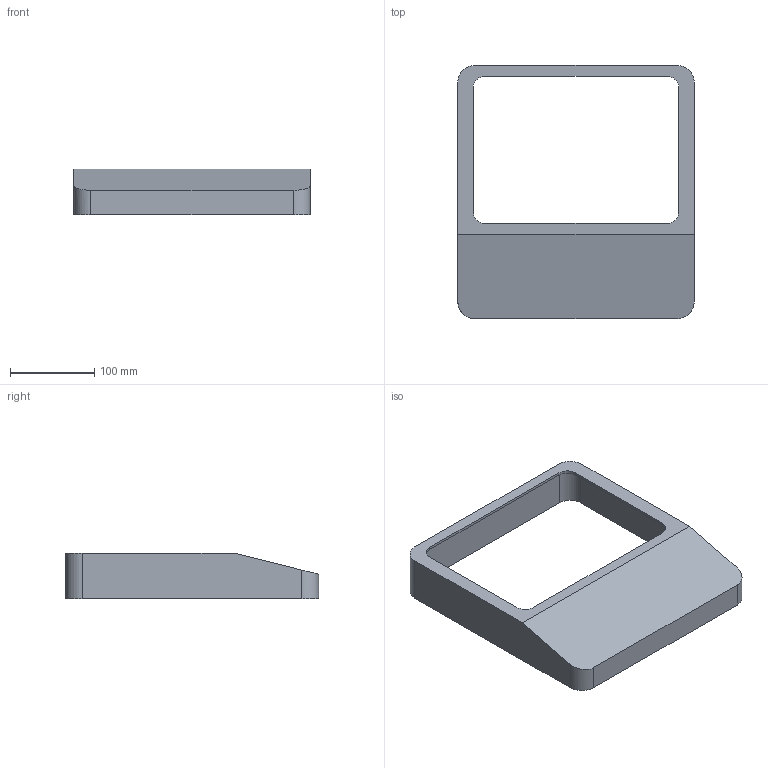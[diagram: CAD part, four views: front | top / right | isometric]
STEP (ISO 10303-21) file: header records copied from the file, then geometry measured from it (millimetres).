
FILE_DESCRIPTION(('Open CASCADE Model'),'2;1');
FILE_NAME('Open CASCADE Shape Model','2026-09-07T11:12:44',('Author'),( 'Open CASCADE'),'Open CASCADE STEP processor 7.9','Open CASCADE 7.9' ,'Unknown');
FILE_SCHEMA(('AUTOMOTIVE_DESIGN { 1 0 10303 214 1 1 1 1 }'));
Length unit declared in the file: millimetre
Products named in the file (1): Open CASCADE STEP translator 7.9 2
Bounding box: 280 x 300 x 54.2 mm (x, y, z)
Volume: 286192.7 mm3; surface area: 186737 mm2
Topology: 1 solids, 1 shells, 29 faces, 78 edges, 52 vertices
Faces by surface type: plane 17, cylinder 12
Entity records: 1953 total; most frequent: CARTESIAN_POINT 444, DIRECTION 263, ORIENTED_EDGE 156, PCURVE 156, DEFINITIONAL_REPRESENTATION 156, LINE 140, VECTOR 140, EDGE_CURVE 78
